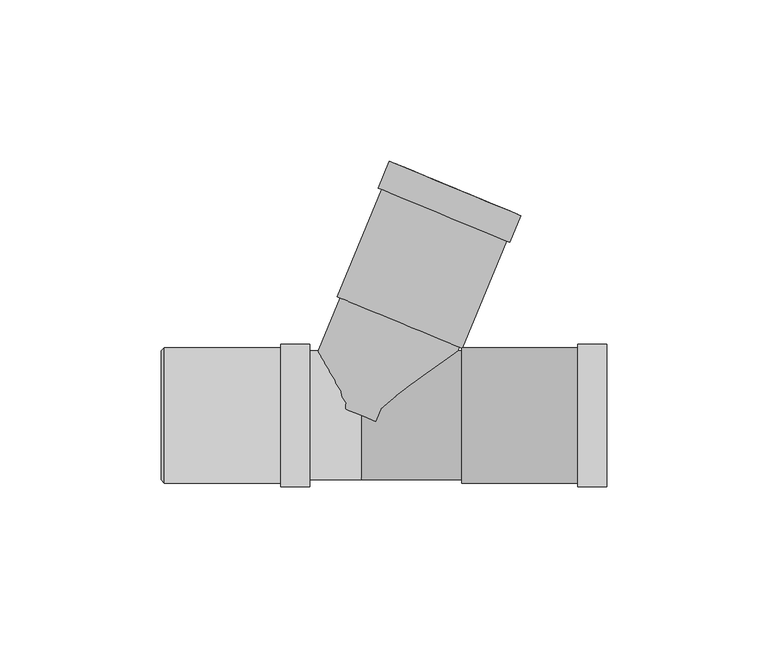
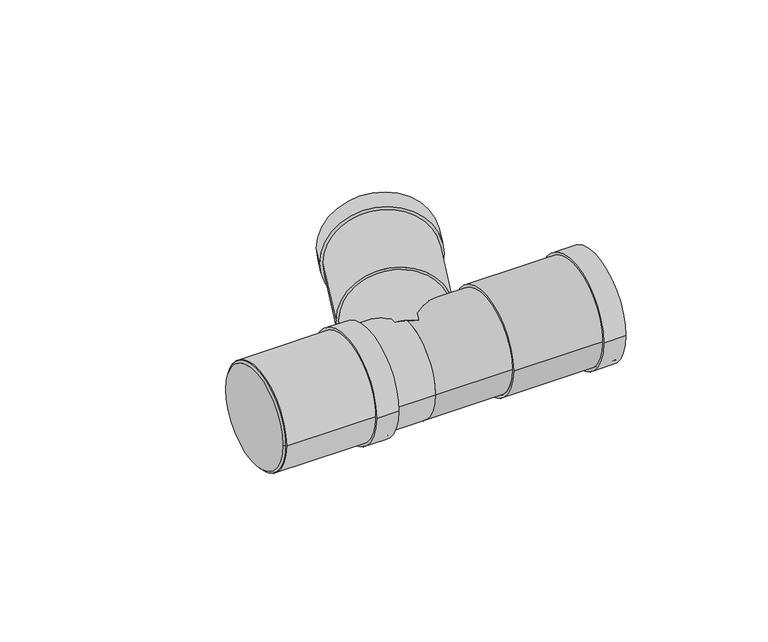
"""IFC4 building model written with IfcOpenShell, lengths in millimetres: pipe fitting geometry, Superdrain HTEA Branch : Superdrain HTEA Branch."""

from ifc_helpers import new_model, si_unit, point, frame, origin, origin_2d, place, context, project, spatial, polyline, circle_curve, trimmed, segment, composite_curve, outline, extrude, source, transform, mapped, element, save
from ifc_brep_helpers import plane_surface, revolved_surface, advanced_brep


def pipe_fitting_38ff0558(model_context):
    return source(origin(), model_context, "Body", "SolidModel", [
        extrude(outline(composite_curve([segment(trimmed(circle_curve(origin_2d(), 21.0), [point((21.0, 0.0))], [point((-21.0, 0.0))], False, "CARTESIAN"), True, "CONTINUOUS"), segment(trimmed(circle_curve(origin_2d(), 21.0), [point((-21.0, 0.0))], [point((21.0, 0.0))], False, "CARTESIAN"), True, "CONTINUOUS")], self_intersect=False), holes=[composite_curve([segment(trimmed(circle_curve(origin_2d(), 20.0), [point((20.0, 0.0))], [point((-20.0, 0.0))], True, "CARTESIAN"), True, "CONTINUOUS"), segment(trimmed(circle_curve(origin_2d(), 20.0), [point((-20.0, 0.0))], [point((20.0, 0.0))], True, "CARTESIAN"), True, "CONTINUOUS")], self_intersect=False)]), frame((-61.0, 0.0, 0.0), z_axis=(1.0, 0.0, 0.0), x_axis=(0.0, 1.0, 0.0)), (0.0, 0.0, 1.0), 45.0),
        extrude(outline(composite_curve([segment(trimmed(circle_curve(origin_2d(), 22.05), [point((22.05, 0.0))], [point((-22.05, 0.0))], False, "CARTESIAN"), True, "CONTINUOUS"), segment(trimmed(circle_curve(origin_2d(), 22.05), [point((-22.05, 0.0))], [point((22.05, 0.0))], False, "CARTESIAN"), True, "CONTINUOUS")], self_intersect=False), holes=[composite_curve([segment(trimmed(circle_curve(origin_2d(), 20.0), [point((20.0, 0.0))], [point((-20.0, 0.0))], True, "CARTESIAN"), True, "CONTINUOUS"), segment(trimmed(circle_curve(origin_2d(), 20.0), [point((-20.0, 0.0))], [point((20.0, 0.0))], True, "CARTESIAN"), True, "CONTINUOUS")], self_intersect=False)]), frame((-25.0, 0.0, 0.0), z_axis=(1.0, 0.0, 0.0), x_axis=(0.0, 1.0, 0.0)), (0.0, 0.0, 1.0), 9.0),
        advanced_brep(
        [(-62.0, 20.0, 0.0), (-62.0, -20.0, 0.0), (-61.0, 21.0, 0.0), (-61.0, -21.0, 0.0)],
        [
            (0, 1, circle_curve(frame((-62.0, 0.0, 0.0), z_axis=(-1.0, 0.0, 0.0), x_axis=(0.0, 1.0, 0.0)), 20.0)),
            (1, 0, circle_curve(frame((-62.0, 0.0, 0.0), z_axis=(-1.0, 0.0, 0.0), x_axis=(0.0, -1.0, 0.0)), 20.0)),
            (2, 3, circle_curve(frame((-61.0, 0.0, 0.0), z_axis=(1.0, 0.0, 0.0), x_axis=(0.0, -1.0, 0.0)), 21.0)),
            (3, 2, circle_curve(frame((-61.0, 0.0, 0.0), z_axis=(1.0, 0.0, 0.0), x_axis=(0.0, 1.0, 0.0)), 21.0)),
            (3, 1),
            (0, 2),
        ],
        [
            plane_surface(frame((-62.0, 0.0, 0.0), z_axis=(-1.0, 0.0, 0.0), x_axis=(0.0, 0.0, -1.0))),
            plane_surface(frame((-61.0, 0.0, 0.0), z_axis=(1.0, 0.0, 0.0), x_axis=(0.0, 0.0, -1.0))),
            revolved_surface(polyline([(-62.0, 20.0, 0.0), (-61.0, 21.0, 0.0)]), (-82.0, 0.0, 0.0), (1.0, 0.0, 0.0)),
            revolved_surface(polyline([(-62.0, -20.0, 0.0), (-61.0, -21.0, 0.0)]), (-82.0, 0.0, 0.0), (1.0, 0.0, 0.0)),
        ],
        [
            (0, [[1, 2]]),
            (1, [[3, 4]]),
            (2, [[-4, 5, -1, 6]]),
            (3, [[-3, -6, -2, -5]]),
        ],
    ),
        extrude(outline(composite_curve([segment(trimmed(circle_curve(origin_2d(), 21.0), [point((-21.0, 0.0))], [point((21.0, 0.0))], False, "CARTESIAN"), True, "CONTINUOUS"), segment(trimmed(circle_curve(origin_2d(), 21.0), [point((21.0, 0.0))], [point((-21.0, 0.0))], False, "CARTESIAN"), True, "CONTINUOUS")], self_intersect=False), holes=[composite_curve([segment(trimmed(circle_curve(origin_2d(), 20.0), [point((20.0, 0.0))], [point((-20.0, 0.0))], True, "CARTESIAN"), True, "CONTINUOUS"), segment(trimmed(circle_curve(origin_2d(), 20.0), [point((-20.0, 0.0))], [point((20.0, 0.0))], True, "CARTESIAN"), True, "CONTINUOUS")], self_intersect=False)]), frame((31.2, 0.0, 0.0), z_axis=(1.0, 0.0, 0.0), x_axis=(0.0, 1.0, 0.0)), (0.0, 0.0, 1.0), 45.0),
        extrude(outline(composite_curve([segment(trimmed(circle_curve(origin_2d(), 22.05), [point((22.05, 0.0))], [point((-22.05, 0.0))], False, "CARTESIAN"), True, "CONTINUOUS"), segment(trimmed(circle_curve(origin_2d(), 22.05), [point((-22.05, 0.0))], [point((22.05, 0.0))], False, "CARTESIAN"), True, "CONTINUOUS")], self_intersect=False), holes=[composite_curve([segment(trimmed(circle_curve(origin_2d(), 20.0), [point((20.0, 0.0))], [point((-20.0, 0.0))], True, "CARTESIAN"), True, "CONTINUOUS"), segment(trimmed(circle_curve(origin_2d(), 20.0), [point((-20.0, 0.0))], [point((20.0, 0.0))], True, "CARTESIAN"), True, "CONTINUOUS")], self_intersect=False)]), frame((67.2, 0.0, 0.0), z_axis=(1.0, 0.0, 0.0), x_axis=(0.0, 1.0, 0.0)), (0.0, 0.0, 1.0), 9.0),
        extrude(outline(composite_curve([segment(trimmed(circle_curve(origin_2d(), 20.0), [point((0.0, 20.0))], [point((0.0, -20.0))], False, "CARTESIAN"), True, "CONTINUOUS"), segment(trimmed(circle_curve(origin_2d(), 20.0), [point((0.0, -20.0))], [point((0.0, 20.0))], False, "CARTESIAN"), True, "CONTINUOUS")], self_intersect=False)), frame((0.0, 0.0, 0.0), z_axis=(0.3826834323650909, 0.9238795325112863, 0.0), x_axis=(0.0, 0.0, 1.0)), (0.0, 0.0, 1.0), 31.2),
        extrude(outline(composite_curve([segment(trimmed(circle_curve(origin_2d(), 20.0), [point((20.0, 0.0))], [point((-20.0, 0.0))], False, "CARTESIAN"), True, "CONTINUOUS"), segment(trimmed(circle_curve(origin_2d(), 20.0), [point((-20.0, 0.0))], [point((20.0, 0.0))], False, "CARTESIAN"), True, "CONTINUOUS")], self_intersect=False)), frame((-61.0, 0.0, 0.0), z_axis=(1.0, 0.0, 0.0), x_axis=(0.0, 1.0, 0.0)), (0.0, 0.0, 1.0), 61.0),
        extrude(outline(composite_curve([segment(trimmed(circle_curve(origin_2d(), 20.0), [point((-20.0, 0.0))], [point((20.0, 0.0))], False, "CARTESIAN"), True, "CONTINUOUS"), segment(trimmed(circle_curve(origin_2d(), 20.0), [point((20.0, 0.0))], [point((-20.0, 0.0))], False, "CARTESIAN"), True, "CONTINUOUS")], self_intersect=False)), frame((0.0, 0.0, 0.0), z_axis=(1.0, 0.0, 0.0), x_axis=(0.0, 1.0, 0.0)), (0.0, 0.0, 1.0), 31.2),
        extrude(outline(composite_curve([segment(trimmed(circle_curve(origin_2d(), 22.05), [point((0.0, 22.0499999))], [point((0.0, -22.05))], False, "CARTESIAN"), True, "CONTINUOUS"), segment(trimmed(circle_curve(origin_2d(), 22.05), [point((0.0, -22.05))], [point((0.0, 22.0499999))], False, "CARTESIAN"), True, "CONTINUOUS")], self_intersect=False), holes=[composite_curve([segment(trimmed(circle_curve(origin_2d(), 20.0), [point((0.0, 20.0))], [point((0.0, -20.0))], True, "CARTESIAN"), True, "CONTINUOUS"), segment(trimmed(circle_curve(origin_2d(), 20.0), [point((0.0, -20.0))], [point((0.0, 20.0))], True, "CARTESIAN"), True, "CONTINUOUS")], self_intersect=False)]), frame((25.7163267, 62.0847046, 0.0), z_axis=(0.38268343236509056, 0.9238795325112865, 0.0), x_axis=(0.0, 0.0, 1.0)), (0.0, 0.0, 1.0), 9.0),
        extrude(outline(composite_curve([segment(trimmed(circle_curve(origin_2d(), 21.0), [point((0.0, 21.0))], [point((0.0, -21.0))], False, "CARTESIAN"), True, "CONTINUOUS"), segment(trimmed(circle_curve(origin_2d(), 21.0), [point((0.0, -21.0))], [point((0.0, 21.0))], False, "CARTESIAN"), True, "CONTINUOUS")], self_intersect=False), holes=[composite_curve([segment(trimmed(circle_curve(origin_2d(), 20.0), [point((0.0, 19.9999999))], [point((0.0, -20.0000001))], True, "CARTESIAN"), True, "CONTINUOUS"), segment(trimmed(circle_curve(origin_2d(), 20.0), [point((0.0, -20.0000001))], [point((0.0, 19.9999999))], True, "CARTESIAN"), True, "CONTINUOUS")], self_intersect=False)]), frame((11.9397231, 28.8250414, 0.0), z_axis=(0.38268343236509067, 0.9238795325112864, 0.0), x_axis=(0.0, 0.0, 1.0)), (0.0, 0.0, 1.0), 45.0),
    ])


if __name__ == "__main__":
    model = new_model("IFC4")
    model_context = context("Model", 3, world=origin())
    ifc_project = project(units=[si_unit("LENGTHUNIT", "METRE", prefix="MILLI")], contexts=[model_context])
    site = spatial("IfcSite", under=ifc_project)
    building = spatial("IfcBuilding", under=site)
    placement = place(None, origin())
    pipe_fitting_shape = pipe_fitting_38ff0558(model_context)
    element("IfcPipeFitting", 1, ObjectType="Superdrain HTEA Branch : Superdrain HTEA Branch", at=placement, inside=building, context=model_context, shape_type="MappedRepresentation", body=[
        mapped(pipe_fitting_shape, transform((0.0, 0.0, 0.0), x_axis=(1.0, 0.0, 0.0), y_axis=(0.0, 1.0, 0.0), z_axis=(0.0, 0.0, 1.0))),
    ])
    save(model, "model.ifc")
